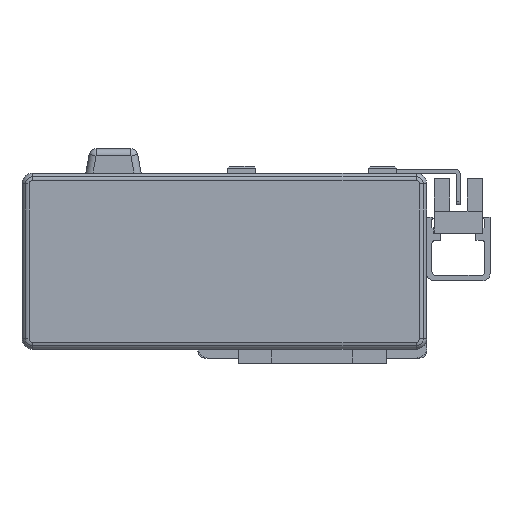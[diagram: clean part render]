
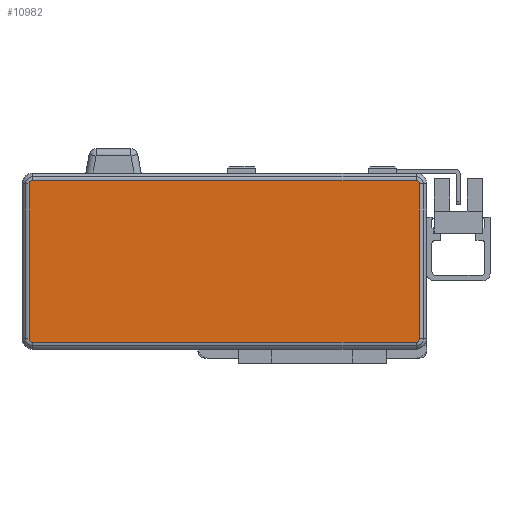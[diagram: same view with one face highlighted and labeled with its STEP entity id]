
A CAD part, left-side view. The second image highlights one B-rep face of the part: STEP entity #10982.
In plain terms, the highlighted planar face has unit normal (-1, 0, 0) as drawn and (0, 0, 1) by its records, which use the part's own axes.
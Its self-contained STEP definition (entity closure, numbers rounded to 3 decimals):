
#1267 = FACE_OUTER_BOUND ( 'NONE', #1381, .T. ) ;
#1381 = EDGE_LOOP ( 'NONE', ( #11561, #6260, #4112, #4381, #4627, #5075, #5246, #5534 ) ) ;
#2234 = CARTESIAN_POINT ( 'NONE',  ( 54.5, -22., 40. ) ) ;
#2582 = DIRECTION ( 'NONE',  ( 0., 0., 1. ) ) ;
#4112 = ORIENTED_EDGE ( 'NONE', *, *, #8079, .T. ) ;
#4381 = ORIENTED_EDGE ( 'NONE', *, *, #8144, .T. ) ;
#4627 = ORIENTED_EDGE ( 'NONE', *, *, #8357, .T. ) ;
#4717 = DIRECTION ( 'NONE',  ( -1., 0., 0. ) ) ;
#5075 = ORIENTED_EDGE ( 'NONE', *, *, #8364, .T. ) ;
#5177 = VERTEX_POINT ( 'NONE', #11012 ) ;
#5246 = ORIENTED_EDGE ( 'NONE', *, *, #8568, .T. ) ;
#5534 = ORIENTED_EDGE ( 'NONE', *, *, #8609, .T. ) ;
#6260 = ORIENTED_EDGE ( 'NONE', *, *, #8035, .T. ) ;
#7397 = CARTESIAN_POINT ( 'NONE',  ( -54.5, 23., 40. ) ) ;
#7730 = EDGE_CURVE ( 'NONE', #19430, #5177, #14022, .T. ) ;
#7927 = DIRECTION ( 'NONE',  ( 0., 0., 1. ) ) ;
#8035 = EDGE_CURVE ( 'NONE', #5177, #12425, #12911, .T. ) ;
#8079 = EDGE_CURVE ( 'NONE', #12425, #20731, #12857, .T. ) ;
#8144 = EDGE_CURVE ( 'NONE', #20731, #22683, #12749, .T. ) ;
#8309 = CARTESIAN_POINT ( 'NONE',  ( 55.5, -22., 40. ) ) ;
#8334 = DIRECTION ( 'NONE',  ( 0., -1., 0. ) ) ;
#8357 = EDGE_CURVE ( 'NONE', #22683, #26309, #11966, .T. ) ;
#8364 = EDGE_CURVE ( 'NONE', #26309, #18215, #12024, .T. ) ;
#8429 = DIRECTION ( 'NONE',  ( 0., 0., 1. ) ) ;
#8568 = EDGE_CURVE ( 'NONE', #18215, #18205, #10905, .T. ) ;
#8609 = EDGE_CURVE ( 'NONE', #18205, #19430, #11141, .T. ) ;
#8797 = CARTESIAN_POINT ( 'NONE',  ( -54.5, -23., 40. ) ) ;
#9069 = CARTESIAN_POINT ( 'NONE',  ( 55.5, 22., 40. ) ) ;
#9877 = DIRECTION ( 'NONE',  ( 0., 0., -1. ) ) ;
#10007 = AXIS2_PLACEMENT_3D ( 'NONE', #20490, #9877, #24692 ) ;
#10879 = VECTOR ( 'NONE', #8334, 1000. ) ;
#10905 = LINE ( 'NONE', #27436, #10879 ) ;
#10982 = ADVANCED_FACE ( 'NONE', ( #1267 ), #16327, .F. ) ;
#11012 = CARTESIAN_POINT ( 'NONE',  ( 54.5, -23., 40. ) ) ;
#11141 = CIRCLE ( 'NONE', #14501, 1. ) ;
#11561 = ORIENTED_EDGE ( 'NONE', *, *, #7730, .T. ) ;
#11840 = VECTOR ( 'NONE', #22815, 1000. ) ;
#11966 = LINE ( 'NONE', #12258, #11840 ) ;
#12024 = CIRCLE ( 'NONE', #14819, 1. ) ;
#12258 = CARTESIAN_POINT ( 'NONE',  ( 0., 23., 40. ) ) ;
#12425 = VERTEX_POINT ( 'NONE', #8309 ) ;
#12749 = CIRCLE ( 'NONE', #15285, 1. ) ;
#12857 = LINE ( 'NONE', #23995, #12863 ) ;
#12861 = CARTESIAN_POINT ( 'NONE',  ( -55.5, 22., 40. ) ) ;
#12863 = VECTOR ( 'NONE', #15648, 1000. ) ;
#12911 = CIRCLE ( 'NONE', #15446, 1. ) ;
#13994 = VECTOR ( 'NONE', #14767, 1000. ) ;
#14022 = LINE ( 'NONE', #14682, #13994 ) ;
#14501 = AXIS2_PLACEMENT_3D ( 'NONE', #21275, #8429, #23313 ) ;
#14682 = CARTESIAN_POINT ( 'NONE',  ( 0., -23., 40. ) ) ;
#14767 = DIRECTION ( 'NONE',  ( 1., 0., 0. ) ) ;
#14819 = AXIS2_PLACEMENT_3D ( 'NONE', #20809, #7927, #22899 ) ;
#15285 = AXIS2_PLACEMENT_3D ( 'NONE', #15919, #2582, #17909 ) ;
#15446 = AXIS2_PLACEMENT_3D ( 'NONE', #2234, #17661, #4717 ) ;
#15648 = DIRECTION ( 'NONE',  ( 0., 1., 0. ) ) ;
#15919 = CARTESIAN_POINT ( 'NONE',  ( 54.5, 22., 40. ) ) ;
#16327 = PLANE ( 'NONE',  #10007 ) ;
#16520 = CARTESIAN_POINT ( 'NONE',  ( 54.5, 23., 40. ) ) ;
#17661 = DIRECTION ( 'NONE',  ( 0., 0., 1. ) ) ;
#17909 = DIRECTION ( 'NONE',  ( -1., 0., 0. ) ) ;
#18205 = VERTEX_POINT ( 'NONE', #21238 ) ;
#18215 = VERTEX_POINT ( 'NONE', #12861 ) ;
#19430 = VERTEX_POINT ( 'NONE', #8797 ) ;
#20490 = CARTESIAN_POINT ( 'NONE',  ( 0., 0., 40. ) ) ;
#20731 = VERTEX_POINT ( 'NONE', #9069 ) ;
#20809 = CARTESIAN_POINT ( 'NONE',  ( -54.5, 22., 40. ) ) ;
#21238 = CARTESIAN_POINT ( 'NONE',  ( -55.5, -22., 40. ) ) ;
#21275 = CARTESIAN_POINT ( 'NONE',  ( -54.5, -22., 40. ) ) ;
#22683 = VERTEX_POINT ( 'NONE', #16520 ) ;
#22815 = DIRECTION ( 'NONE',  ( -1., 0., 0. ) ) ;
#22899 = DIRECTION ( 'NONE',  ( -1., 0., 0. ) ) ;
#23313 = DIRECTION ( 'NONE',  ( -1., 0., 0. ) ) ;
#23995 = CARTESIAN_POINT ( 'NONE',  ( 55.5, 0., 40. ) ) ;
#24692 = DIRECTION ( 'NONE',  ( -1., 0., 0. ) ) ;
#26309 = VERTEX_POINT ( 'NONE', #7397 ) ;
#27436 = CARTESIAN_POINT ( 'NONE',  ( -55.5, 0., 40. ) ) ;
